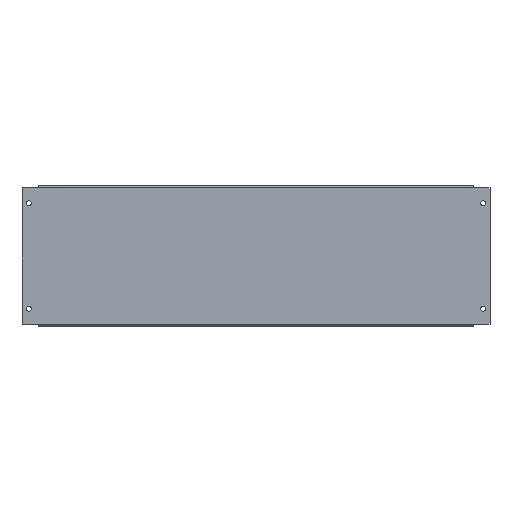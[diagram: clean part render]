
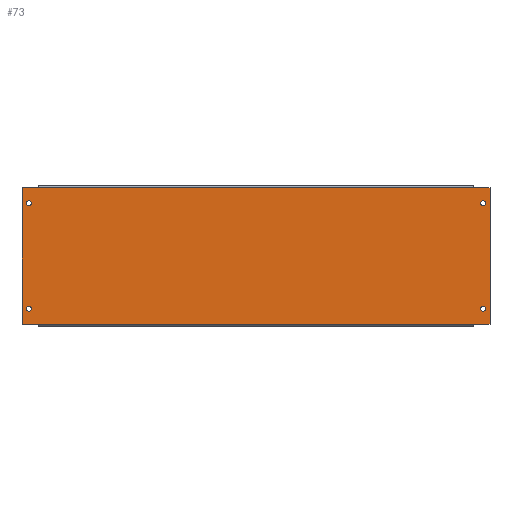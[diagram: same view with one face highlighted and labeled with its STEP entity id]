
A CAD part, top view. The second image highlights one B-rep face of the part: STEP entity #73.
In plain terms, the highlighted planar face has unit normal (0, 0, 1).
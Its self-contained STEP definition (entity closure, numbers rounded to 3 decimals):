
#7 = CIRCLE ( 'NONE', #132, 3.5 ) ;
#8 = CIRCLE ( 'NONE', #88, 3.5 ) ;
#24 = CIRCLE ( 'NONE', #123, 3.5 ) ;
#34 = CIRCLE ( 'NONE', #142, 3.5 ) ;
#73 = ADVANCED_FACE ( 'NONE', ( #743, #682, #689, #684, #752 ), #550, .T. ) ;
#77 = CIRCLE ( 'NONE', #772, 3.5 ) ;
#80 = VECTOR ( 'NONE', #893, 1000. ) ;
#88 = AXIS2_PLACEMENT_3D ( 'NONE', #890, #889, #888 ) ;
#103 = CIRCLE ( 'NONE', #121, 3.5 ) ;
#104 = CIRCLE ( 'NONE', #770, 3.5 ) ;
#105 = CIRCLE ( 'NONE', #136, 3.5 ) ;
#116 = VECTOR ( 'NONE', #941, 1000. ) ;
#121 = AXIS2_PLACEMENT_3D ( 'NONE', #974, #970, #969 ) ;
#123 = AXIS2_PLACEMENT_3D ( 'NONE', #962, #949, #948 ) ;
#125 = VECTOR ( 'NONE', #959, 1000. ) ;
#131 = VECTOR ( 'NONE', #869, 1000. ) ;
#132 = AXIS2_PLACEMENT_3D ( 'NONE', #845, #841, #840 ) ;
#134 = VECTOR ( 'NONE', #857, 1000. ) ;
#136 = AXIS2_PLACEMENT_3D ( 'NONE', #860, #847, #846 ) ;
#142 = AXIS2_PLACEMENT_3D ( 'NONE', #827, #823, #822 ) ;
#235 = EDGE_LOOP ( 'NONE', ( #289, #292 ) ) ;
#236 = EDGE_LOOP ( 'NONE', ( #290, #293 ) ) ;
#237 = EDGE_LOOP ( 'NONE', ( #294, #295 ) ) ;
#238 = EDGE_LOOP ( 'NONE', ( #291, #297, #296, #298, #299, #300, #301, #302 ) ) ;
#239 = EDGE_LOOP ( 'NONE', ( #305, #304 ) ) ;
#289 = ORIENTED_EDGE ( 'NONE', *, *, #1038, .F. ) ;
#290 = ORIENTED_EDGE ( 'NONE', *, *, #1003, .T. ) ;
#291 = ORIENTED_EDGE ( 'NONE', *, *, #1034, .T. ) ;
#292 = ORIENTED_EDGE ( 'NONE', *, *, #1027, .F. ) ;
#293 = ORIENTED_EDGE ( 'NONE', *, *, #1046, .T. ) ;
#294 = ORIENTED_EDGE ( 'NONE', *, *, #996, .F. ) ;
#295 = ORIENTED_EDGE ( 'NONE', *, *, #1033, .F. ) ;
#296 = ORIENTED_EDGE ( 'NONE', *, *, #1022, .T. ) ;
#297 = ORIENTED_EDGE ( 'NONE', *, *, #999, .T. ) ;
#298 = ORIENTED_EDGE ( 'NONE', *, *, #1006, .T. ) ;
#299 = ORIENTED_EDGE ( 'NONE', *, *, #1018, .T. ) ;
#300 = ORIENTED_EDGE ( 'NONE', *, *, #1026, .T. ) ;
#301 = ORIENTED_EDGE ( 'NONE', *, *, #1016, .T. ) ;
#302 = ORIENTED_EDGE ( 'NONE', *, *, #1030, .T. ) ;
#304 = ORIENTED_EDGE ( 'NONE', *, *, #1024, .T. ) ;
#305 = ORIENTED_EDGE ( 'NONE', *, *, #1040, .T. ) ;
#373 = VERTEX_POINT ( 'NONE', #620 ) ;
#374 = VERTEX_POINT ( 'NONE', #621 ) ;
#376 = VERTEX_POINT ( 'NONE', #623 ) ;
#380 = VERTEX_POINT ( 'NONE', #627 ) ;
#382 = VERTEX_POINT ( 'NONE', #629 ) ;
#383 = VERTEX_POINT ( 'NONE', #630 ) ;
#386 = VERTEX_POINT ( 'NONE', #633 ) ;
#387 = VERTEX_POINT ( 'NONE', #634 ) ;
#388 = VERTEX_POINT ( 'NONE', #635 ) ;
#389 = VERTEX_POINT ( 'NONE', #636 ) ;
#390 = VERTEX_POINT ( 'NONE', #637 ) ;
#391 = VERTEX_POINT ( 'NONE', #638 ) ;
#392 = VERTEX_POINT ( 'NONE', #639 ) ;
#393 = VERTEX_POINT ( 'NONE', #640 ) ;
#394 = VERTEX_POINT ( 'NONE', #641 ) ;
#395 = VERTEX_POINT ( 'NONE', #642 ) ;
#550 = PLANE ( 'NONE',  #690 ) ;
#551 = CARTESIAN_POINT ( 'NONE',  ( -332.5, -99.5, 1.2 ) ) ;
#552 = DIRECTION ( 'NONE',  ( 0., 0., 1. ) ) ;
#553 = DIRECTION ( 'NONE',  ( 1., 0., 0. ) ) ;
#620 = CARTESIAN_POINT ( 'NONE',  ( -326.25, -75., 1.2 ) ) ;
#621 = CARTESIAN_POINT ( 'NONE',  ( -319.25, -75., 1.2 ) ) ;
#623 = CARTESIAN_POINT ( 'NONE',  ( 326.25, -75., 1.2 ) ) ;
#627 = CARTESIAN_POINT ( 'NONE',  ( 319.25, -75., 1.2 ) ) ;
#629 = CARTESIAN_POINT ( 'NONE',  ( 319.25, 75., 1.2 ) ) ;
#630 = CARTESIAN_POINT ( 'NONE',  ( 326.25, 75., 1.2 ) ) ;
#633 = CARTESIAN_POINT ( 'NONE',  ( -326.25, 75., 1.2 ) ) ;
#634 = CARTESIAN_POINT ( 'NONE',  ( -319.25, 75., 1.2 ) ) ;
#635 = CARTESIAN_POINT ( 'NONE',  ( -332.5, 97.1, 1.2 ) ) ;
#636 = CARTESIAN_POINT ( 'NONE',  ( -332.5, -97.1, 1.2 ) ) ;
#637 = CARTESIAN_POINT ( 'NONE',  ( -309.5, -97.1, 1.2 ) ) ;
#638 = CARTESIAN_POINT ( 'NONE',  ( 309.5, -97.1, 1.2 ) ) ;
#639 = CARTESIAN_POINT ( 'NONE',  ( 332.5, -97.1, 1.2 ) ) ;
#640 = CARTESIAN_POINT ( 'NONE',  ( 332.5, 97.1, 1.2 ) ) ;
#641 = CARTESIAN_POINT ( 'NONE',  ( 309.5, 97.1, 1.2 ) ) ;
#642 = CARTESIAN_POINT ( 'NONE',  ( -309.5, 97.1, 1.2 ) ) ;
#682 = FACE_BOUND ( 'NONE', #236, .T. ) ;
#684 = FACE_OUTER_BOUND ( 'NONE', #238, .T. ) ;
#689 = FACE_BOUND ( 'NONE', #237, .T. ) ;
#690 = AXIS2_PLACEMENT_3D ( 'NONE', #551, #552, #553 ) ;
#743 = FACE_BOUND ( 'NONE', #235, .T. ) ;
#752 = FACE_BOUND ( 'NONE', #239, .T. ) ;
#769 = VECTOR ( 'NONE', #881, 1000. ) ;
#770 = AXIS2_PLACEMENT_3D ( 'NONE', #863, #862, #861 ) ;
#772 = AXIS2_PLACEMENT_3D ( 'NONE', #887, #880, #879 ) ;
#822 = DIRECTION ( 'NONE',  ( 1., 0., 0. ) ) ;
#823 = DIRECTION ( 'NONE',  ( 0., 0., -1. ) ) ;
#827 = CARTESIAN_POINT ( 'NONE',  ( 322.75, 75., 1.2 ) ) ;
#840 = DIRECTION ( 'NONE',  ( 1., 0., 0. ) ) ;
#841 = DIRECTION ( 'NONE',  ( 0., 0., -1. ) ) ;
#845 = CARTESIAN_POINT ( 'NONE',  ( -322.75, -75., 1.2 ) ) ;
#846 = DIRECTION ( 'NONE',  ( 1., 0., 0. ) ) ;
#847 = DIRECTION ( 'NONE',  ( 0., 0., 1. ) ) ;
#857 = DIRECTION ( 'NONE',  ( 0., -1., 0. ) ) ;
#858 = CARTESIAN_POINT ( 'NONE',  ( -332.5, 99.5, 1.2 ) ) ;
#859 = LINE ( 'NONE', #858, #134 ) ;
#860 = CARTESIAN_POINT ( 'NONE',  ( 322.75, -75., 1.2 ) ) ;
#861 = DIRECTION ( 'NONE',  ( 1., 0., 0. ) ) ;
#862 = DIRECTION ( 'NONE',  ( 0., 0., 1. ) ) ;
#863 = CARTESIAN_POINT ( 'NONE',  ( -322.75, 75., 1.2 ) ) ;
#869 = DIRECTION ( 'NONE',  ( -1., 0., 0. ) ) ;
#870 = CARTESIAN_POINT ( 'NONE',  ( -332.5, 97.1, 1.2 ) ) ;
#871 = LINE ( 'NONE', #870, #131 ) ;
#879 = DIRECTION ( 'NONE',  ( 1., 0., 0. ) ) ;
#880 = DIRECTION ( 'NONE',  ( 0., 0., 1. ) ) ;
#881 = DIRECTION ( 'NONE',  ( -1., 0., 0. ) ) ;
#882 = CARTESIAN_POINT ( 'NONE',  ( -332.5, 97.1, 1.2 ) ) ;
#883 = LINE ( 'NONE', #882, #769 ) ;
#887 = CARTESIAN_POINT ( 'NONE',  ( 322.75, -75., 1.2 ) ) ;
#888 = DIRECTION ( 'NONE',  ( 1., 0., 0. ) ) ;
#889 = DIRECTION ( 'NONE',  ( 0., 0., -1. ) ) ;
#890 = CARTESIAN_POINT ( 'NONE',  ( -322.75, -75., 1.2 ) ) ;
#893 = DIRECTION ( 'NONE',  ( 1., 0., 0. ) ) ;
#894 = CARTESIAN_POINT ( 'NONE',  ( -309.5, -97.1, 1.2 ) ) ;
#895 = LINE ( 'NONE', #894, #80 ) ;
#905 = DIRECTION ( 'NONE',  ( 0., 1., 0. ) ) ;
#906 = CARTESIAN_POINT ( 'NONE',  ( 332.5, 99.5, 1.2 ) ) ;
#907 = LINE ( 'NONE', #906, #992 ) ;
#911 = DIRECTION ( 'NONE',  ( -1., 0., 0. ) ) ;
#912 = CARTESIAN_POINT ( 'NONE',  ( 309.5, 97.1, 1.2 ) ) ;
#913 = LINE ( 'NONE', #912, #990 ) ;
#941 = DIRECTION ( 'NONE',  ( 1., 0., 0. ) ) ;
#942 = CARTESIAN_POINT ( 'NONE',  ( -332.5, -97.1, 1.2 ) ) ;
#943 = LINE ( 'NONE', #942, #116 ) ;
#948 = DIRECTION ( 'NONE',  ( 1., 0., 0. ) ) ;
#949 = DIRECTION ( 'NONE',  ( 0., 0., -1. ) ) ;
#959 = DIRECTION ( 'NONE',  ( 1., 0., 0. ) ) ;
#960 = CARTESIAN_POINT ( 'NONE',  ( -332.5, -97.1, 1.2 ) ) ;
#961 = LINE ( 'NONE', #960, #125 ) ;
#962 = CARTESIAN_POINT ( 'NONE',  ( 322.75, 75., 1.2 ) ) ;
#969 = DIRECTION ( 'NONE',  ( 1., 0., 0. ) ) ;
#970 = DIRECTION ( 'NONE',  ( 0., 0., 1. ) ) ;
#974 = CARTESIAN_POINT ( 'NONE',  ( -322.75, 75., 1.2 ) ) ;
#990 = VECTOR ( 'NONE', #911, 1000. ) ;
#992 = VECTOR ( 'NONE', #905, 1000. ) ;
#996 = EDGE_CURVE ( 'NONE', #387, #386, #103, .T. ) ;
#999 = EDGE_CURVE ( 'NONE', #389, #390, #961, .T. ) ;
#1003 = EDGE_CURVE ( 'NONE', #383, #382, #24, .T. ) ;
#1006 = EDGE_CURVE ( 'NONE', #391, #392, #943, .T. ) ;
#1016 = EDGE_CURVE ( 'NONE', #394, #395, #913, .T. ) ;
#1018 = EDGE_CURVE ( 'NONE', #392, #393, #907, .T. ) ;
#1022 = EDGE_CURVE ( 'NONE', #390, #391, #895, .T. ) ;
#1024 = EDGE_CURVE ( 'NONE', #373, #374, #8, .T. ) ;
#1026 = EDGE_CURVE ( 'NONE', #393, #394, #883, .T. ) ;
#1027 = EDGE_CURVE ( 'NONE', #380, #376, #77, .T. ) ;
#1030 = EDGE_CURVE ( 'NONE', #395, #388, #871, .T. ) ;
#1033 = EDGE_CURVE ( 'NONE', #386, #387, #104, .T. ) ;
#1034 = EDGE_CURVE ( 'NONE', #388, #389, #859, .T. ) ;
#1038 = EDGE_CURVE ( 'NONE', #376, #380, #105, .T. ) ;
#1040 = EDGE_CURVE ( 'NONE', #374, #373, #7, .T. ) ;
#1046 = EDGE_CURVE ( 'NONE', #382, #383, #34, .T. ) ;
